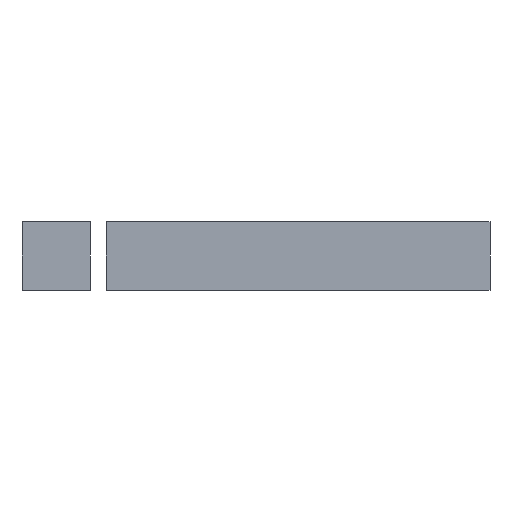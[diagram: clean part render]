
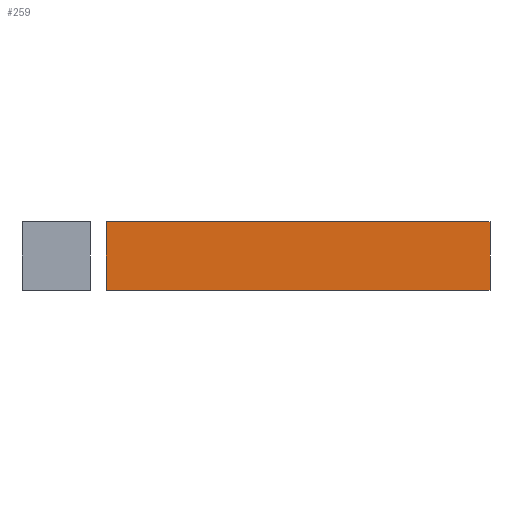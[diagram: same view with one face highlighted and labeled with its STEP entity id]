
A CAD part, front view. The second image highlights one B-rep face of the part: STEP entity #259.
In plain terms, the highlighted planar face has unit normal (0, -1, 0).
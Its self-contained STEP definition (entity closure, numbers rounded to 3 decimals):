
#43 = EDGE_CURVE('',#44,#46,#48,.T.);
#44 = VERTEX_POINT('',#45);
#45 = CARTESIAN_POINT('',(-29.5,-5.25,-5.25));
#46 = VERTEX_POINT('',#47);
#47 = CARTESIAN_POINT('',(-29.5,-5.25,5.25));
#48 = SURFACE_CURVE('',#49,(#53,#65),.PCURVE_S1.);
#49 = LINE('',#50,#51);
#50 = CARTESIAN_POINT('',(-29.5,-5.25,-5.25));
#51 = VECTOR('',#52,1.);
#52 = DIRECTION('',(0.,0.,1.));
#53 = PCURVE('',#54,#59);
#54 = PLANE('',#55);
#55 = AXIS2_PLACEMENT_3D('',#56,#57,#58);
#56 = CARTESIAN_POINT('',(-29.5,-5.25,-5.25));
#57 = DIRECTION('',(1.,0.,-0.));
#58 = DIRECTION('',(0.,0.,1.));
#59 = DEFINITIONAL_REPRESENTATION('',(#60),#64);
#60 = LINE('',#61,#62);
#61 = CARTESIAN_POINT('',(0.,0.));
#62 = VECTOR('',#63,1.);
#63 = DIRECTION('',(1.,0.));
#64 = ( GEOMETRIC_REPRESENTATION_CONTEXT(2) 
PARAMETRIC_REPRESENTATION_CONTEXT() REPRESENTATION_CONTEXT('2D SPACE',''
  ) );
#65 = PCURVE('',#66,#71);
#66 = PLANE('',#67);
#67 = AXIS2_PLACEMENT_3D('',#68,#69,#70);
#68 = CARTESIAN_POINT('',(-29.5,-5.25,-5.25));
#69 = DIRECTION('',(-0.,1.,0.));
#70 = DIRECTION('',(0.,0.,1.));
#71 = DEFINITIONAL_REPRESENTATION('',(#72),#76);
#72 = LINE('',#73,#74);
#73 = CARTESIAN_POINT('',(0.,0.));
#74 = VECTOR('',#75,1.);
#75 = DIRECTION('',(1.,0.));
#76 = ( GEOMETRIC_REPRESENTATION_CONTEXT(2) 
PARAMETRIC_REPRESENTATION_CONTEXT() REPRESENTATION_CONTEXT('2D SPACE',''
  ) );
#94 = PLANE('',#95);
#95 = AXIS2_PLACEMENT_3D('',#96,#97,#98);
#96 = CARTESIAN_POINT('',(-29.5,-5.25,-5.25));
#97 = DIRECTION('',(0.,0.,1.));
#98 = DIRECTION('',(1.,0.,-0.));
#148 = PLANE('',#149);
#149 = AXIS2_PLACEMENT_3D('',#150,#151,#152);
#150 = CARTESIAN_POINT('',(-29.5,-5.25,5.25));
#151 = DIRECTION('',(0.,0.,1.));
#152 = DIRECTION('',(1.,0.,-0.));
#163 = EDGE_CURVE('',#164,#166,#168,.T.);
#164 = VERTEX_POINT('',#165);
#165 = CARTESIAN_POINT('',(29.5,-5.25,-5.25));
#166 = VERTEX_POINT('',#167);
#167 = CARTESIAN_POINT('',(29.5,-5.25,5.25));
#168 = SURFACE_CURVE('',#169,(#173,#185),.PCURVE_S1.);
#169 = LINE('',#170,#171);
#170 = CARTESIAN_POINT('',(29.5,-5.25,-5.25));
#171 = VECTOR('',#172,1.);
#172 = DIRECTION('',(0.,0.,1.));
#173 = PCURVE('',#174,#179);
#174 = PLANE('',#175);
#175 = AXIS2_PLACEMENT_3D('',#176,#177,#178);
#176 = CARTESIAN_POINT('',(29.5,-5.25,-5.25));
#177 = DIRECTION('',(1.,0.,-0.));
#178 = DIRECTION('',(0.,0.,1.));
#179 = DEFINITIONAL_REPRESENTATION('',(#180),#184);
#180 = LINE('',#181,#182);
#181 = CARTESIAN_POINT('',(0.,0.));
#182 = VECTOR('',#183,1.);
#183 = DIRECTION('',(1.,0.));
#184 = ( GEOMETRIC_REPRESENTATION_CONTEXT(2) 
PARAMETRIC_REPRESENTATION_CONTEXT() REPRESENTATION_CONTEXT('2D SPACE',''
  ) );
#185 = PCURVE('',#66,#186);
#186 = DEFINITIONAL_REPRESENTATION('',(#187),#191);
#187 = LINE('',#188,#189);
#188 = CARTESIAN_POINT('',(0.,59.));
#189 = VECTOR('',#190,1.);
#190 = DIRECTION('',(1.,0.));
#191 = ( GEOMETRIC_REPRESENTATION_CONTEXT(2) 
PARAMETRIC_REPRESENTATION_CONTEXT() REPRESENTATION_CONTEXT('2D SPACE',''
  ) );
#259 = ADVANCED_FACE('',(#260),#66,.F.);
#260 = FACE_BOUND('',#261,.F.);
#261 = EDGE_LOOP('',(#262,#283,#284,#305));
#262 = ORIENTED_EDGE('',*,*,#263,.F.);
#263 = EDGE_CURVE('',#44,#164,#264,.T.);
#264 = SURFACE_CURVE('',#265,(#269,#276),.PCURVE_S1.);
#265 = LINE('',#266,#267);
#266 = CARTESIAN_POINT('',(-29.5,-5.25,-5.25));
#267 = VECTOR('',#268,1.);
#268 = DIRECTION('',(1.,0.,-0.));
#269 = PCURVE('',#66,#270);
#270 = DEFINITIONAL_REPRESENTATION('',(#271),#275);
#271 = LINE('',#272,#273);
#272 = CARTESIAN_POINT('',(0.,0.));
#273 = VECTOR('',#274,1.);
#274 = DIRECTION('',(0.,1.));
#275 = ( GEOMETRIC_REPRESENTATION_CONTEXT(2) 
PARAMETRIC_REPRESENTATION_CONTEXT() REPRESENTATION_CONTEXT('2D SPACE',''
  ) );
#276 = PCURVE('',#94,#277);
#277 = DEFINITIONAL_REPRESENTATION('',(#278),#282);
#278 = LINE('',#279,#280);
#279 = CARTESIAN_POINT('',(0.,0.));
#280 = VECTOR('',#281,1.);
#281 = DIRECTION('',(1.,0.));
#282 = ( GEOMETRIC_REPRESENTATION_CONTEXT(2) 
PARAMETRIC_REPRESENTATION_CONTEXT() REPRESENTATION_CONTEXT('2D SPACE',''
  ) );
#283 = ORIENTED_EDGE('',*,*,#43,.T.);
#284 = ORIENTED_EDGE('',*,*,#285,.T.);
#285 = EDGE_CURVE('',#46,#166,#286,.T.);
#286 = SURFACE_CURVE('',#287,(#291,#298),.PCURVE_S1.);
#287 = LINE('',#288,#289);
#288 = CARTESIAN_POINT('',(-29.5,-5.25,5.25));
#289 = VECTOR('',#290,1.);
#290 = DIRECTION('',(1.,0.,-0.));
#291 = PCURVE('',#66,#292);
#292 = DEFINITIONAL_REPRESENTATION('',(#293),#297);
#293 = LINE('',#294,#295);
#294 = CARTESIAN_POINT('',(10.5,0.));
#295 = VECTOR('',#296,1.);
#296 = DIRECTION('',(0.,1.));
#297 = ( GEOMETRIC_REPRESENTATION_CONTEXT(2) 
PARAMETRIC_REPRESENTATION_CONTEXT() REPRESENTATION_CONTEXT('2D SPACE',''
  ) );
#298 = PCURVE('',#148,#299);
#299 = DEFINITIONAL_REPRESENTATION('',(#300),#304);
#300 = LINE('',#301,#302);
#301 = CARTESIAN_POINT('',(0.,0.));
#302 = VECTOR('',#303,1.);
#303 = DIRECTION('',(1.,0.));
#304 = ( GEOMETRIC_REPRESENTATION_CONTEXT(2) 
PARAMETRIC_REPRESENTATION_CONTEXT() REPRESENTATION_CONTEXT('2D SPACE',''
  ) );
#305 = ORIENTED_EDGE('',*,*,#163,.F.);
